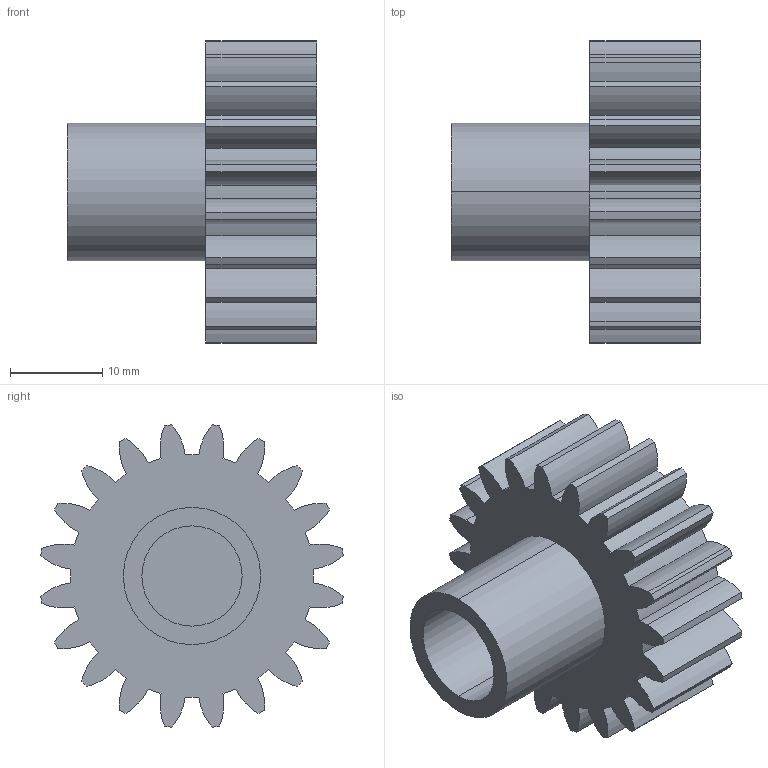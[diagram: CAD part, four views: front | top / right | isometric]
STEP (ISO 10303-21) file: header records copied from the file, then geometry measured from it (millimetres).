
FILE_DESCRIPTION (( 'STEP AP214' ), '1' );
FILE_NAME ('Brush Head + Gear (For Motor).STEP', '2024-07-18T10:00:28', ( '' ), ( '' ), 'SwSTEP 2.0', 'SolidWorks 2023', '' );
FILE_SCHEMA (( 'AUTOMOTIVE_DESIGN' ));
Length unit declared in the file: millimetre
Products named in the file (1): Brush Head + Gear (For Motor)
Bounding box: 27 x 32.71 x 32.71 mm (x, y, z)
Volume: 9268.2 mm3; surface area: 5009.4 mm2
Topology: 1 solids, 1 shells, 98 faces, 279 edges, 186 vertices
Faces by surface type: cylinder 91, plane 7
Entity records: 3330 total; most frequent: DIRECTION 661, CARTESIAN_POINT 564, ORIENTED_EDGE 558, AXIS2_PLACEMENT_3D 283, EDGE_CURVE 279, VERTEX_POINT 186, CIRCLE 184, EDGE_LOOP 101
